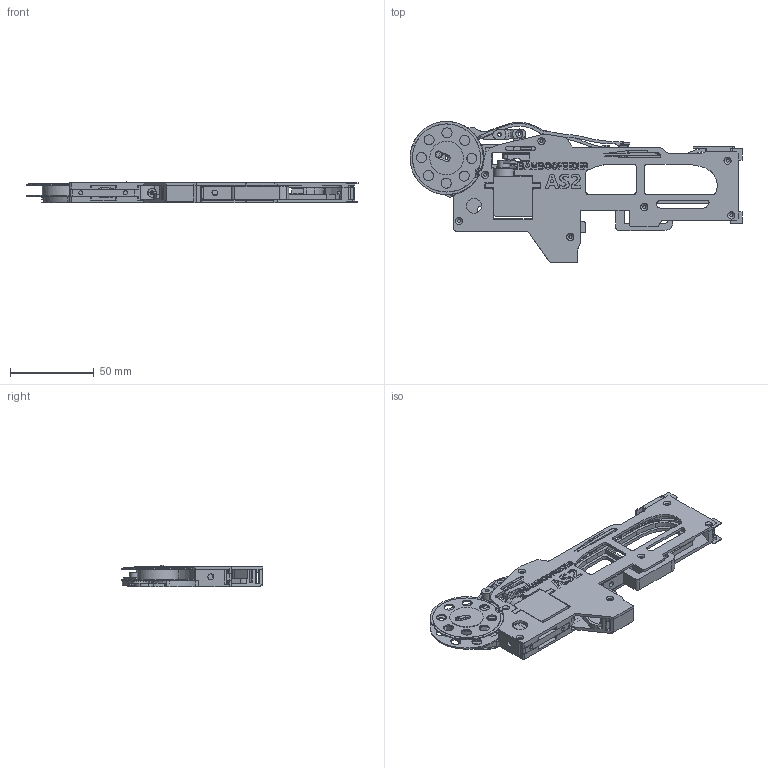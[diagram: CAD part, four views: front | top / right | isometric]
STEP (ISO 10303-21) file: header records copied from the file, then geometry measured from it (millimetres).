
FILE_DESCRIPTION (( 'STEP AP203' ), '1' );
FILE_NAME ('PPBF-AS2-08-P02-V1.0-ASM01.STEP', '2026-03-18T04:41:10', ( '' ), ( '' ), 'SwSTEP 2.0', 'SolidWorks 2020', '' );
FILE_SCHEMA (( 'CONFIG_CONTROL_DESIGN' ));
Length unit declared in the file: millimetre
Products named in the file (18): PPBF-AS2-HolderTnut_08-V1.0; ServoArm_Cut; PPBF-AS2-Pushrod_08-P02-V1.0; PPBF-AS2-TopClampingPlate_08-0402-V1.1; PPBF-AS2-LabelCard_08-V1.0; PPBF-AS2-TopSpring-P02-V1.0; PPBF-AS2-SpoolPawlPullrodConnector-V1.0; Servo-SG90; PPBF-AS2-Cover_08-P02-V1.0; PPBF-AS2-MountingBlockA_08-V2.0; PPBF-AS2-SpoolWasher-V1.0; PPBF-AS2-SpoolPawlPullrod-P02-V1.0; PPBF-AS2-SpoolRing_08-V1.0; PPBF-AS2-08-P02-V1.0-ASM01; PPBF-AS2-SpoolGear_08-P02-V1.0; PPBF-AS2-ServoAdvancer-V1.0; PPBF-AS2-Base_08-P02-V1.0; PPBF-AS2-Spool_08-V1.1
Assembly tree (17 placements, depth 2):
  PPBF-AS2-08-P02-V1.0-ASM01
    PPBF-AS2-Base_08-P02-V1.0
    PPBF-AS2-Cover_08-P02-V1.0
    PPBF-AS2-Spool_08-V1.1
    PPBF-AS2-SpoolGear_08-P02-V1.0
    PPBF-AS2-SpoolWasher-V1.0
    PPBF-AS2-SpoolRing_08-V1.0
    PPBF-AS2-Pushrod_08-P02-V1.0
    PPBF-AS2-ServoAdvancer-V1.0
    ServoArm_Cut
    Servo-SG90
    PPBF-AS2-SpoolPawlPullrod-P02-V1.0
    PPBF-AS2-SpoolPawlPullrodConnector-V1.0
    PPBF-AS2-TopSpring-P02-V1.0
    PPBF-AS2-HolderTnut_08-V1.0
    PPBF-AS2-TopClampingPlate_08-0402-V1.1
    PPBF-AS2-LabelCard_08-V1.0
    PPBF-AS2-MountingBlockA_08-V2.0
Bounding box: 197.71 x 84.1 x 12.93 mm (x, y, z)
Volume: 54045 mm3; surface area: 63836.2 mm2
Topology: 18 solids, 18 shells, 2211 faces, 6197 edges, 4069 vertices
Faces by surface type: plane 1230, cylinder 748, bspline 109, cone 100, torus 20, sphere 4
Full cylindrical faces by diameter (mm): 1 x3, 1.75 x1, 1.8 x3, 1.85 x11, 1.9 x1, 2 x1, 2.2 x6, 2.25 x1, 2.3 x8, 2.4 x2, 3.3 x1, 3.5 x2, 3.9 x1, 4.1 x1, 4.5 x1, 5 x2, 5.2 x1, 5.3 x1, 5.6 x1, 6 x16, 6.6 x1, 6.85 x1, 7 x1, 7.05 x1, 9 x1, 12 x1, 12.638 x1, 15.838 x1, 16.8 x1, 18.3 x1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
Entity records: 79585 total; most frequent: CARTESIAN_POINT 20758, ORIENTED_EDGE 12116, DIRECTION 11504, EDGE_CURVE 6058, VERTEX_POINT 4036, LINE 3994, VECTOR 3994, AXIS2_PLACEMENT_3D 3755
